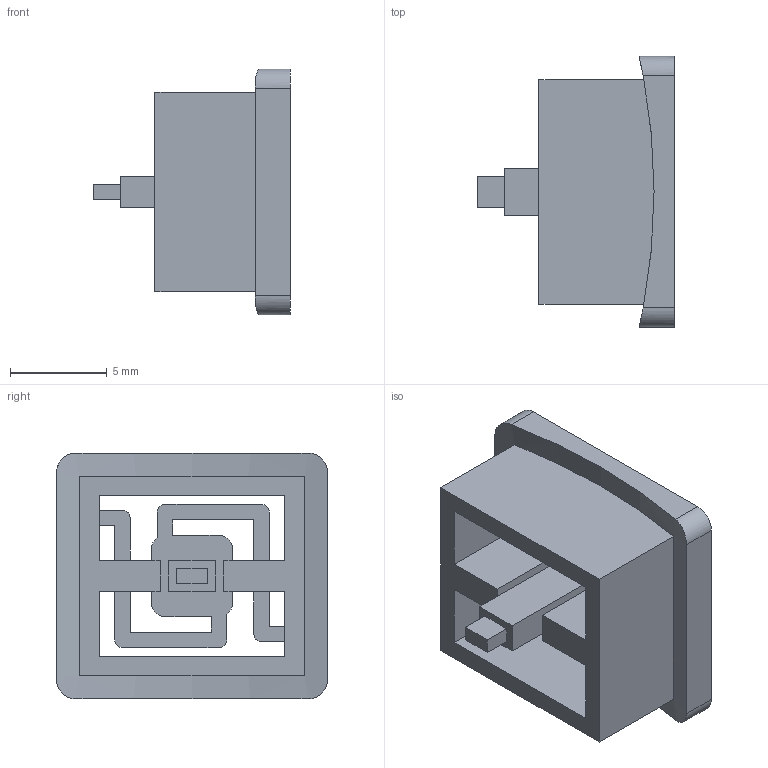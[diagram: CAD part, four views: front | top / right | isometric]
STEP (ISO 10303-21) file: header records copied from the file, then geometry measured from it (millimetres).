
FILE_DESCRIPTION(('Open CASCADE Model'),'2;1');
FILE_NAME('Open CASCADE Shape Model','2026-10-13T21:30:35',('Author'),( 'Open CASCADE'),'Open CASCADE STEP processor 7.9','Open CASCADE 7.9' ,'Unknown');
FILE_SCHEMA(('AUTOMOTIVE_DESIGN { 1 0 10303 214 1 1 1 1 }'));
Length unit declared in the file: millimetre
Products named in the file (1): Open CASCADE STEP translator 7.9 1
Bounding box: 10.17 x 14 x 12.7 mm (x, y, z)
Volume: 482.9 mm3; surface area: 1063.4 mm2
Topology: 1 solids, 1 shells, 68 faces, 192 edges, 128 vertices
Faces by surface type: plane 53, cylinder 15
Entity records: 4740 total; most frequent: CARTESIAN_POINT 983, DIRECTION 661, LINE 445, VECTOR 445, ORIENTED_EDGE 384, PCURVE 384, DEFINITIONAL_REPRESENTATION 384, EDGE_CURVE 192
